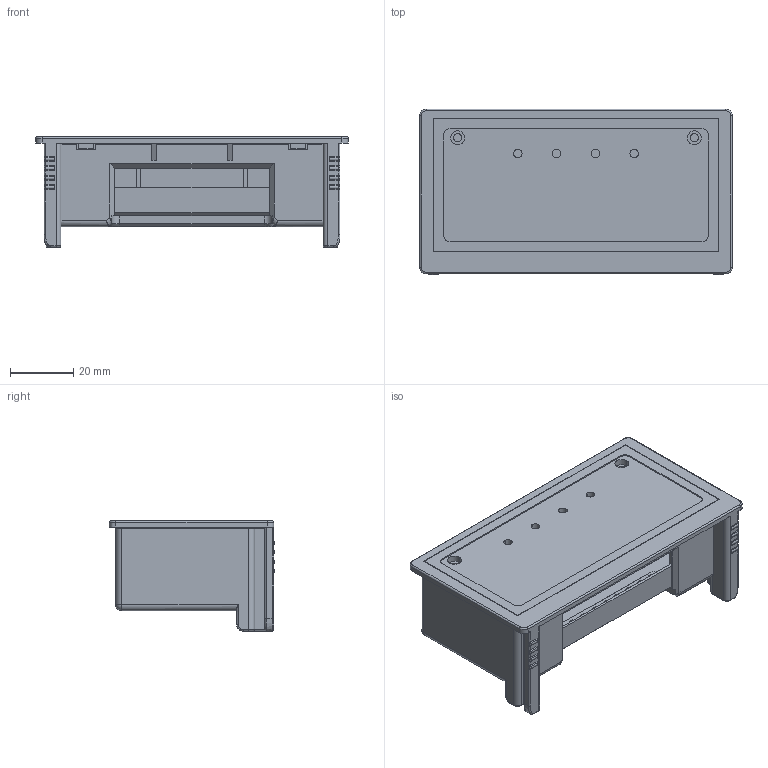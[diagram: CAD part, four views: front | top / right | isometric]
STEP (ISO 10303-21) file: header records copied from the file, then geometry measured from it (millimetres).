
FILE_DESCRIPTION((''),'2;1');
FILE_NAME('5TZD_005_6077_ASM','2026-05-19T16:28:26',('liuhui'),(''),'CREO PARAMETRIC BY PTC INC, 2020354','CREO PARAMETRIC BY PTC INC, 2020354','');
FILE_SCHEMA(('CONFIG_CONTROL_DESIGN'));
Length unit declared in the file: millimetre
Products named in the file (3): 8TZD_060_6073; 8TZD_060_6074; 5TZD_005_6077_ASM
Assembly tree (2 placements, depth 2):
  5TZD_005_6077_ASM
    8TZD_060_6073
    8TZD_060_6074
Bounding box: 99 x 52.4 x 35 mm (x, y, z)
Volume: 32279.9 mm3; surface area: 36880.3 mm2
Topology: 2 solids, 2 shells, 912 faces, 2510 edges, 1607 vertices
Faces by surface type: plane 604, cylinder 210, torus 54, cone 24, bspline 14, sphere 4, extrusion 2
Entity records: 30027 total; most frequent: CARTESIAN_POINT 6488, ORIENTED_EDGE 5008, DIRECTION 4746, EDGE_CURVE 2504, VECTOR 1968, LINE 1966, VERTEX_POINT 1604, AXIS2_PLACEMENT_3D 1389
